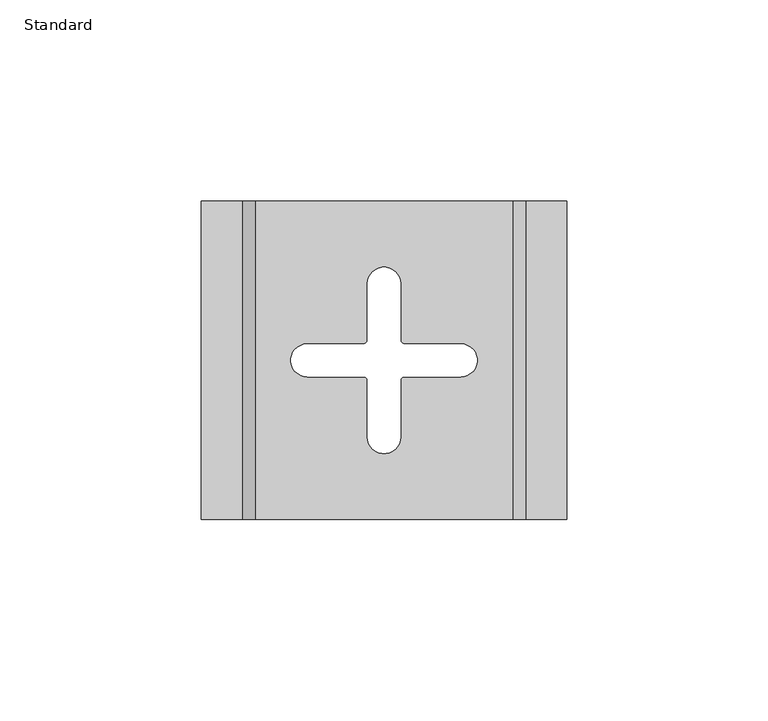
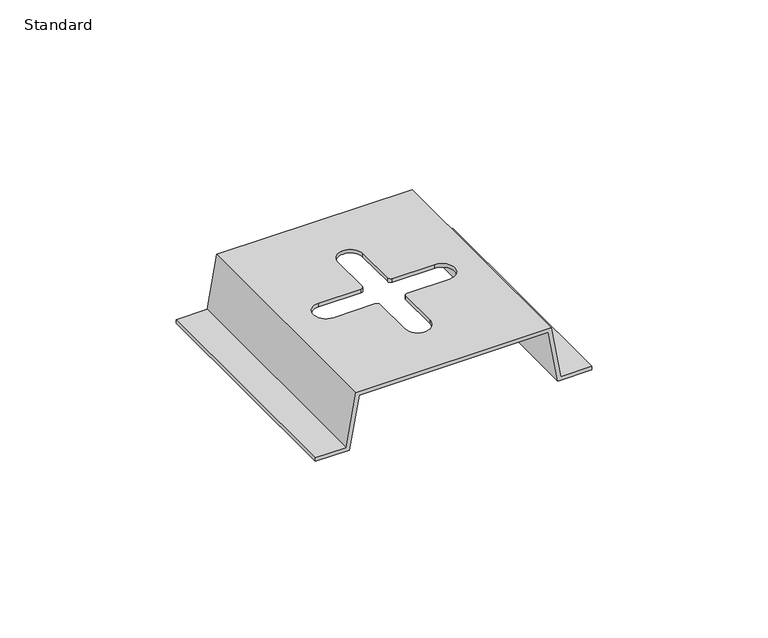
"""IFC4 building model written with IfcOpenShell, lengths in millimetres: electric appliance geometry, Mount-Surface-Cablofil : Standard."""

import ifcopenshell
import ifcopenshell.guid

model = None  # the IFC model being written
_history = None  # IfcOwnerHistory: only IFC2X3 demands one
_inside = {}  # id of a spatial element -> (the spatial element, [elements in it])
_under = {}  # id of a project, library or spatial element -> (it, [spatial elements below it])
_declared = {}  # id of a project -> (the project, [libraries it declares])
_typed = {}  # id of a type object -> (the type object, [elements of that type])
_made_of = {}  # id of a material, layer set ... -> (it, [elements and type objects made of it])


def new_model(schema):
    """Start an empty IFC model of exactly this schema.

    Asked for "IFC4X3", IfcOpenShell would pick the latest addendum, in which some entities
    have other attributes; the version numbers below select the first issue.
    IFC2X3 requires an IfcOwnerHistory on every rooted entity: one is made here for all.
    """
    global model, _history
    if schema == "IFC4X3":
        model = ifcopenshell.file(schema_version=(4, 3, 0, 0))
    else:
        model = ifcopenshell.file(schema=schema)
    _inside.clear()
    _under.clear()
    _declared.clear()
    _typed.clear()
    _made_of.clear()
    _history = None
    if model.schema == "IFC2X3":
        org = make("IfcOrganization", Name="unknown")
        user = make(
            "IfcPersonAndOrganization",
            ThePerson=make("IfcPerson", FamilyName="unknown"),
            TheOrganization=org,
        )
        app = make(
            "IfcApplication",
            ApplicationDeveloper=org,
            Version="unknown",
            ApplicationFullName="unknown",
            ApplicationIdentifier="unknown",
        )
        _history = make(
            "IfcOwnerHistory",
            OwningUser=user,
            OwningApplication=app,
            ChangeAction="ADDED",
            CreationDate=0,
        )
    return model


def make(cls, **values):
    """One entity of the class cls with the attributes given. An attribute that is None is left unset."""
    return model.create_entity(
        cls, **{name: value for name, value in values.items() if value is not None}
    )


def rooted(cls, **values):
    """An entity with a GlobalId (a new one), such as an element, a storey or a relation."""
    return make(cls, GlobalId=ifcopenshell.guid.new(), OwnerHistory=_history, **values)


def si_unit(unit_type, name, prefix=None):
    """IfcSIUnit, for example si_unit("LENGTHUNIT", "METRE", prefix="MILLI")."""
    return make("IfcSIUnit", UnitType=unit_type, Prefix=prefix, Name=name)


def assignment(units):
    """IfcUnitAssignment: the units of a project."""
    return None if units is None else make("IfcUnitAssignment", Units=units)


def point(xyz):
    """IfcCartesianPoint."""
    return None if xyz is None else make("IfcCartesianPoint", Coordinates=xyz)


def direction(xyz):
    """IfcDirection."""
    return None if xyz is None else make("IfcDirection", DirectionRatios=xyz)


def frame(location, z_axis=None, x_axis=None):
    """IfcAxis2Placement3D, a coordinate frame: its origin and axes. An axis left out is left unset."""
    return make(
        "IfcAxis2Placement3D",
        Location=point(location),
        Axis=direction(z_axis),
        RefDirection=direction(x_axis),
    )


def origin():
    """The frame at (0, 0, 0) with its axes left unset."""
    return frame((0.0, 0.0, 0.0))


def place(relative_to, where):
    """IfcLocalPlacement: puts the frame where relative to a parent placement (None: the world)."""
    return make(
        "IfcLocalPlacement", PlacementRelTo=relative_to, RelativePlacement=where
    )


def context(
    kind, dimensions, precision=None, world=None, true_north=None, identifier=None
):
    """IfcGeometricRepresentationContext, for example the 3D "Model" context."""
    return make(
        "IfcGeometricRepresentationContext",
        ContextIdentifier=identifier,
        ContextType=kind,
        CoordinateSpaceDimension=dimensions,
        Precision=precision,
        WorldCoordinateSystem=world,
        TrueNorth=true_north,
    )


def project(units=None, contexts=None):
    """IfcProject with its units and contexts."""
    return rooted(
        "IfcProject",
        Name="project",
        RepresentationContexts=contexts,
        UnitsInContext=assignment(units),
    )


def spatial(cls, under=None, at=None, **own):
    """A site, building, storey or space (cls), placed at a placement, below another one or the project."""
    s = rooted(cls, ObjectPlacement=at, **own)
    if under is not None:
        _under.setdefault(under.id(), (under, []))[1].append(s)
    return s


def polyline(points):
    """IfcPolyline through the points."""
    return make("IfcPolyline", Points=[point(p) for p in points])


def circle_curve(where, radius):
    """IfcCircle in the frame where."""
    return make("IfcCircle", Position=where, Radius=radius)


def shape(context_of_items, identifier, shape_type, items):
    """IfcShapeRepresentation: the items that make up one representation, for example the "Body"."""
    return make(
        "IfcShapeRepresentation",
        ContextOfItems=context_of_items,
        RepresentationIdentifier=identifier,
        RepresentationType=shape_type,
        Items=items,
    )


def source(mapping_origin, context_of_items, identifier, shape_type, items):
    """IfcRepresentationMap: a shape defined once, which mapped items show again and again."""
    return make(
        "IfcRepresentationMap",
        MappingOrigin=mapping_origin,
        MappedRepresentation=shape(context_of_items, identifier, shape_type, items),
    )


def transform(
    local_origin,
    x_axis=None,
    y_axis=None,
    z_axis=None,
    scale=None,
    scale2=None,
    scale3=None,
    uniform=True,
):
    """IfcCartesianTransformationOperator3D, or its non-uniform kind. x_axis, y_axis, z_axis: its Axis1, 2, 3."""
    if uniform:
        return make(
            "IfcCartesianTransformationOperator3D",
            Axis1=direction(x_axis),
            Axis2=direction(y_axis),
            LocalOrigin=point(local_origin),
            Scale=scale,
            Axis3=direction(z_axis),
        )
    return make(
        "IfcCartesianTransformationOperator3DnonUniform",
        Axis1=direction(x_axis),
        Axis2=direction(y_axis),
        LocalOrigin=point(local_origin),
        Scale=scale,
        Axis3=direction(z_axis),
        Scale2=scale2,
        Scale3=scale3,
    )


def mapped(mapping_source, mapping_target):
    """IfcMappedItem: shows the shape of a source again, moved by a transform."""
    return make(
        "IfcMappedItem", MappingSource=mapping_source, MappingTarget=mapping_target
    )


def made_of(thing, what):
    """Note that an element or type object is made of a material, layer set ...; save() writes the relation."""
    if what is not None:
        _made_of.setdefault(what.id(), (what, []))[1].append(thing)
    return thing


def element(
    cls,
    number,
    at=None,
    inside=None,
    cuts=None,
    type_object=None,
    material=None,
    context=None,
    identifier="Body",
    shape_type=None,
    held_by="IfcProductDefinitionShape",
    body=None,
    shapes=None,
    **own,
):
    """One element of the class cls, such as IfcWall. Its Tag is "e" and its number.

    at: its placement. inside: the storey or other place that contains it. cuts: it is an
    opening in that element (IfcRelVoidsElement). A single representation is given by context,
    identifier, shape_type and body (its items); several are given by shapes. held_by: the class
    of the entity that holds the representations. save() writes the other relations.
    """
    e = rooted(cls, Tag="e%d" % number, ObjectPlacement=at, **own)
    if body is not None:
        shapes = [shape(context, identifier, shape_type, body)]
    if shapes is not None:
        e.Representation = make(held_by, Representations=shapes)
    if inside is not None:
        _inside.setdefault(inside.id(), (inside, []))[1].append(e)
    if cuts is not None:
        rooted(
            "IfcRelVoidsElement", RelatingBuildingElement=cuts, RelatedOpeningElement=e
        )
    if type_object is not None:
        _typed.setdefault(type_object.id(), (type_object, []))[1].append(e)
    return made_of(e, material)


def aggregate(whole, parts):
    """IfcRelAggregates: a whole, such as a stair, and the parts it consists of."""
    return rooted("IfcRelAggregates", RelatingObject=whole, RelatedObjects=parts)


def save(model, path):
    """Write the relations noted so far, then the file.

    IfcRelAggregates (storeys below a building ...), IfcRelContainedInSpatialStructure (elements
    in a storey), IfcRelDefinesByType, IfcRelAssociatesMaterial and IfcRelDeclares: one each for
    every whole, place, type object, material and project.
    """
    for whole, parts in _under.values():
        aggregate(whole, parts)
    for where, things in _inside.values():
        rooted(
            "IfcRelContainedInSpatialStructure",
            RelatedElements=things,
            RelatingStructure=where,
        )
    for kind, things in _typed.values():
        rooted("IfcRelDefinesByType", RelatedObjects=things, RelatingType=kind)
    for what, things in _made_of.values():
        rooted("IfcRelAssociatesMaterial", RelatedObjects=things, RelatingMaterial=what)
    for by, libraries in _declared.values():
        rooted("IfcRelDeclares", RelatingContext=by, RelatedDefinitions=libraries)
    model.write(path)


def plane_surface(at):
    """IfcPlane: the flat surface through the origin of the frame at, square to its z axis."""
    return make("IfcPlane", Position=at)


def cylinder_surface(at, radius):
    """IfcCylindricalSurface: all points at the distance radius from the z axis of the frame at."""
    return make("IfcCylindricalSurface", Position=at, Radius=radius)


def revolved_surface(curve, axis_point, axis_direction):
    """IfcSurfaceOfRevolution: the curve turned about the line through axis_point along axis_direction."""
    return make(
        "IfcSurfaceOfRevolution",
        SweptCurve=make("IfcArbitraryOpenProfileDef", ProfileType="CURVE", Curve=curve),
        AxisPosition=make("IfcAxis1Placement", Location=point(axis_point), Axis=direction(axis_direction)),
    )


def advanced_brep(points, edges, surfaces, faces):
    """IfcAdvancedBrep: a solid bounded by faces that lie on surfaces and meet in shared edges.

    An edge is (start, end): straight between two places in points (the first is 0);
    or (start, end, curve); or (start, end, curve, False) where it runs against its curve.
    A face is (place in surfaces, loops), or (place, loops, False) where it looks against
    its surface's normal. A loop lists edges by number (the first is 1), with a minus sign
    where the edge is run from its end to its start. The first loop is the outer one.
    """
    corners = [point(p) for p in points]
    vertices = [make("IfcVertexPoint", VertexGeometry=c) for c in corners]
    made = []
    for start, end, *more in edges:
        made.append(
            make(
                "IfcEdgeCurve",
                EdgeStart=vertices[start],
                EdgeEnd=vertices[end],
                EdgeGeometry=more[0] if more else make("IfcPolyline", Points=[corners[start], corners[end]]),
                SameSense=more[1] if len(more) > 1 else True,
            )
        )
    hull = []
    for where, loops, *sense in faces:
        bounds = []
        for j, loop in enumerate(loops):
            ring = [make("IfcOrientedEdge", EdgeElement=made[abs(k) - 1], Orientation=k > 0) for k in loop]
            bounds.append(
                make(
                    "IfcFaceOuterBound" if j == 0 else "IfcFaceBound",
                    Bound=make("IfcEdgeLoop", EdgeList=ring),
                    Orientation=True,
                )
            )
        hull.append(make("IfcAdvancedFace", Bounds=bounds, FaceSurface=surfaces[where], SameSense=sense[0] if sense else True))
    return make("IfcAdvancedBrep", Outer=make("IfcClosedShell", CfsFaces=hull))


def standard_ea093acd(model_context):
    return source(origin(), model_context, "Body", "AdvancedBrep", [
        advanced_brep(
        [(45.3004826, 39.5, 0.0), (34.1669661, 39.5, 0.0), (30.9930804, 39.5, 18.0), (-30.9930804, 39.5, 18.0), (-34.1669661, 39.5, 0.0), (-45.3004826, 39.5, 0.0), (-45.3004826, 39.5, 1.2), (-35.1738857, 39.5, 1.2), (-32.0, 39.5, 19.2), (32.0, 39.5, 19.2), (35.1738857, 39.5, 1.2), (45.3004826, 39.5, 1.2), (45.3004826, -39.5, 0.0), (45.3004826, -39.5, 1.2), (35.1738857, -39.5, 1.2), (32.0, -39.5, 19.2), (-32.0, -39.5, 19.2), (-35.1738857, -39.5, 1.2), (-45.3004826, -39.5, 1.2), (-45.3004826, -39.5, 0.0), (-34.1669661, -39.5, 0.0), (-30.9930804, -39.5, 18.0), (30.9930804, -39.5, 18.0), (34.1669661, -39.5, 0.0), (-4.1, 19.05, 18.0), (-4.1, 5.1, 18.0), (-5.1, 4.1, 18.0), (-19.05, 4.1, 18.0), (-19.05, -4.1, 18.0), (-5.1, -4.1, 18.0), (-4.1, -5.1, 18.0), (-4.1, -19.05, 18.0), (4.1, -19.05, 18.0), (4.1, -5.1, 18.0), (5.1, -4.1, 18.0), (19.05, -4.1, 18.0), (19.05, 4.1, 18.0), (5.1, 4.1, 18.0), (4.1, 5.1, 18.0), (4.1, 19.05, 18.0), (-4.1, 5.1, 19.2), (-4.1, 19.05, 19.2), (4.1, 19.05, 19.2), (4.1, 5.1, 19.2), (5.1, 4.1, 19.2), (19.05, 4.1, 19.2), (19.05, -4.1, 19.2), (5.1, -4.1, 19.2), (4.1, -5.1, 19.2), (4.1, -19.05, 19.2), (-4.1, -19.05, 19.2), (-4.1, -5.1, 19.2), (-5.1, -4.1, 19.2), (-19.05, -4.1, 19.2), (-19.05, 4.1, 19.2), (-5.1, 4.1, 19.2)],
        [
            (0, 1),
            (1, 2),
            (2, 3),
            (3, 4),
            (4, 5),
            (5, 6),
            (6, 7),
            (7, 8),
            (8, 9),
            (9, 10),
            (10, 11),
            (11, 0),
            (12, 13),
            (13, 14),
            (14, 15),
            (15, 16),
            (16, 17),
            (17, 18),
            (18, 19),
            (19, 20),
            (20, 21),
            (21, 22),
            (22, 23),
            (23, 12),
            (0, 12),
            (23, 1),
            (22, 2),
            (21, 3),
            (24, 25),
            (25, 26, circle_curve(frame((-5.1, 5.1, 18.0), z_axis=(0.0, 0.0, -1.0), x_axis=(1.0, 0.0, 0.0)), 1.0)),
            (26, 27),
            (27, 28, circle_curve(frame((-19.05, 0.0, 18.0), z_axis=(0.0, 0.0, 1.0), x_axis=(1.0, 0.0, 0.0)), 4.1)),
            (28, 29),
            (29, 30, circle_curve(frame((-5.1, -5.1, 18.0), z_axis=(0.0, 0.0, -1.0), x_axis=(1.0, 0.0, 0.0)), 1.0)),
            (30, 31),
            (31, 32, circle_curve(frame((0.0, -19.05, 18.0), z_axis=(0.0, 0.0, 1.0), x_axis=(1.0, 0.0, 0.0)), 4.1)),
            (32, 33),
            (33, 34, circle_curve(frame((5.1, -5.1, 18.0), z_axis=(0.0, 0.0, -1.0), x_axis=(1.0, 0.0, 0.0)), 1.0)),
            (34, 35),
            (35, 36, circle_curve(frame((19.05, 0.0, 18.0), z_axis=(0.0, 0.0, 1.0), x_axis=(1.0, 0.0, 0.0)), 4.1)),
            (36, 37),
            (37, 38, circle_curve(frame((5.1, 5.1, 18.0), z_axis=(0.0, 0.0, -1.0), x_axis=(1.0, 0.0, 0.0)), 1.0)),
            (38, 39),
            (39, 24, circle_curve(frame((0.0, 19.05, 18.0), z_axis=(0.0, 0.0, 1.0), x_axis=(1.0, 0.0, 0.0)), 4.1)),
            (20, 4),
            (19, 5),
            (18, 6),
            (17, 7),
            (16, 8),
            (15, 9),
            (40, 41),
            (41, 42, circle_curve(frame((0.0, 19.05, 19.2), z_axis=(0.0, 0.0, -1.0), x_axis=(1.0, 0.0, 0.0)), 4.1)),
            (42, 43),
            (43, 44, circle_curve(frame((5.1, 5.1, 19.2), z_axis=(0.0, 0.0, 1.0), x_axis=(1.0, 0.0, 0.0)), 1.0)),
            (44, 45),
            (45, 46, circle_curve(frame((19.05, 0.0, 19.2), z_axis=(0.0, 0.0, -1.0), x_axis=(1.0, 0.0, 0.0)), 4.1)),
            (46, 47),
            (47, 48, circle_curve(frame((5.1, -5.1, 19.2), z_axis=(0.0, 0.0, 1.0), x_axis=(1.0, 0.0, 0.0)), 1.0)),
            (48, 49),
            (49, 50, circle_curve(frame((0.0, -19.05, 19.2), z_axis=(0.0, 0.0, -1.0), x_axis=(1.0, 0.0, 0.0)), 4.1)),
            (50, 51),
            (51, 52, circle_curve(frame((-5.1, -5.1, 19.2), z_axis=(0.0, 0.0, 1.0), x_axis=(1.0, 0.0, 0.0)), 1.0)),
            (52, 53),
            (53, 54, circle_curve(frame((-19.05, 0.0, 19.2), z_axis=(0.0, 0.0, -1.0), x_axis=(1.0, 0.0, 0.0)), 4.1)),
            (54, 55),
            (55, 40, circle_curve(frame((-5.1, 5.1, 19.2), z_axis=(0.0, 0.0, 1.0), x_axis=(1.0, 0.0, 0.0)), 1.0)),
            (14, 10),
            (13, 11),
            (24, 41),
            (40, 25),
            (55, 26),
            (54, 27),
            (53, 28),
            (52, 29),
            (51, 30),
            (50, 31),
            (49, 32),
            (48, 33),
            (47, 34),
            (46, 35),
            (45, 36),
            (44, 37),
            (43, 38),
            (42, 39),
        ],
        [
            plane_surface(frame((45.3004826, 39.5, 0.0), z_axis=(0.0, 1.0, 0.0), x_axis=(-1.0, 0.0, 0.0))),
            plane_surface(frame((45.3004826, -39.5, 0.0), z_axis=(0.0, -1.0, 0.0), x_axis=(1.0, 0.0, 0.0))),
            plane_surface(frame((45.3004826, 39.5, 0.0), z_axis=(0.0, 0.0, -1.0), x_axis=(0.0, -1.0, 0.0))),
            plane_surface(frame((34.1669661, 39.5, 0.0), z_axis=(-0.9848077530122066, 0.0, -0.17364817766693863), x_axis=(0.0, -1.0, 0.0))),
            plane_surface(frame((30.9930804, 39.5, 18.0), z_axis=(0.0, 0.0, -1.0), x_axis=(0.0, -1.0, 0.0))),
            plane_surface(frame((-30.9930804, 39.5, 18.0), z_axis=(0.9848077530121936, 0.0, -0.1736481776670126), x_axis=(0.0, -1.0, 0.0))),
            plane_surface(frame((-34.1669661, 39.5, 0.0), z_axis=(0.0, 0.0, -1.0), x_axis=(0.0, -1.0, 0.0))),
            plane_surface(frame((-45.3004826, 39.5, 0.0), z_axis=(-1.0, 0.0, 0.0), x_axis=(0.0, -1.0, 0.0))),
            plane_surface(frame((-45.3004826, 39.5, 1.2), z_axis=(0.0, 0.0, 1.0), x_axis=(0.0, -1.0, 0.0))),
            plane_surface(frame((-35.1738857, 39.5, 1.2), z_axis=(-0.9848077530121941, 0.0, 0.17364817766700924), x_axis=(0.0, -1.0, 0.0))),
            plane_surface(frame((-32.0, 39.5, 19.2), z_axis=(0.0, 0.0, 1.0), x_axis=(0.0, -1.0, 0.0))),
            plane_surface(frame((32.0, 39.5, 19.2), z_axis=(0.9848077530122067, 0.0, 0.17364817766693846), x_axis=(0.0, -1.0, 0.0))),
            plane_surface(frame((35.1738857, 39.5, 1.2), z_axis=(0.0, 0.0, 1.0), x_axis=(0.0, -1.0, 0.0))),
            plane_surface(frame((45.3004826, 39.5, 1.2), z_axis=(1.0, 0.0, 0.0), x_axis=(0.0, -1.0, 0.0))),
            plane_surface(frame((-4.1, 19.05, 19.2), z_axis=(1.0, 0.0, 0.0), x_axis=(0.0, 0.0, -1.0))),
            cylinder_surface(frame((-5.1, 5.1, 0.0), z_axis=(0.0, 0.0, -1.0), x_axis=(1.0, 0.0, 0.0)), 1.0),
            plane_surface(frame((-5.1, 4.1, 19.2), z_axis=(0.0, -1.0, 0.0), x_axis=(0.0, 0.0, -1.0))),
            revolved_surface(polyline([(-14.950000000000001, 0.0, 19.2), (-14.950000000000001, 0.0, 18.0)]), (-19.05, 0.0, 0.0), (0.0, 0.0, 1.0)),
            plane_surface(frame((-19.05, -4.1, 19.2), z_axis=(0.0, 1.0, 0.0), x_axis=(0.0, 0.0, -1.0))),
            cylinder_surface(frame((-5.1, -5.1, 0.0), z_axis=(0.0, 0.0, -1.0), x_axis=(1.0, 0.0, 0.0)), 1.0),
            plane_surface(frame((-4.1, -5.1, 19.2), z_axis=(1.0, 0.0, 0.0), x_axis=(0.0, 0.0, -1.0))),
            revolved_surface(polyline([(4.1, -19.05, 19.2), (4.1, -19.05, 18.0)]), (0.0, -19.05, 0.0), (0.0, 0.0, 1.0)),
            plane_surface(frame((4.1, -19.05, 19.2), z_axis=(-1.0, 0.0, 0.0), x_axis=(0.0, 0.0, -1.0))),
            cylinder_surface(frame((5.1, -5.1, 0.0), z_axis=(0.0, 0.0, -1.0), x_axis=(1.0, 0.0, 0.0)), 1.0),
            plane_surface(frame((5.1, -4.1, 19.2), z_axis=(0.0, 1.0, 0.0), x_axis=(0.0, 0.0, -1.0))),
            revolved_surface(polyline([(23.15, 0.0, 19.2), (23.15, 0.0, 18.0)]), (19.05, 0.0, 0.0), (0.0, 0.0, 1.0)),
            plane_surface(frame((19.05, 4.1, 19.2), z_axis=(0.0, -1.0, 0.0), x_axis=(0.0, 0.0, -1.0))),
            cylinder_surface(frame((5.1, 5.1, 0.0), z_axis=(0.0, 0.0, -1.0), x_axis=(1.0, 0.0, 0.0)), 1.0),
            plane_surface(frame((4.1, 5.1, 19.2), z_axis=(-1.0, 0.0, 0.0), x_axis=(0.0, 0.0, -1.0))),
            revolved_surface(polyline([(4.1, 19.05, 19.2), (4.1, 19.05, 18.0)]), (0.0, 19.05, 0.0), (0.0, 0.0, 1.0)),
        ],
        [
            (0, [[1, 2, 3, 4, 5, 6, 7, 8, 9, 10, 11, 12]]),
            (1, [[13, 14, 15, 16, 17, 18, 19, 20, 21, 22, 23, 24]]),
            (2, [[-1, 25, -24, 26]]),
            (3, [[-2, -26, -23, 27]]),
            (4, [[-3, -27, -22, 28], [29, 30, 31, 32, 33, 34, 35, 36, 37, 38, 39, 40, 41, 42, 43, 44]]),
            (5, [[-4, -28, -21, 45]]),
            (6, [[-5, -45, -20, 46]]),
            (7, [[-6, -46, -19, 47]]),
            (8, [[-7, -47, -18, 48]]),
            (9, [[-8, -48, -17, 49]]),
            (10, [[-9, -49, -16, 50], [51, 52, 53, 54, 55, 56, 57, 58, 59, 60, 61, 62, 63, 64, 65, 66]]),
            (11, [[-10, -50, -15, 67]]),
            (12, [[-11, -67, -14, 68]]),
            (13, [[-12, -68, -13, -25]]),
            (14, [[69, -51, 70, -29]]),
            (15, [[-70, -66, 71, -30]]),
            (16, [[-71, -65, 72, -31]]),
            (17, [[-72, -64, 73, -32]]),
            (18, [[-73, -63, 74, -33]]),
            (19, [[-74, -62, 75, -34]]),
            (20, [[-75, -61, 76, -35]]),
            (21, [[-76, -60, 77, -36]]),
            (22, [[-77, -59, 78, -37]]),
            (23, [[-78, -58, 79, -38]]),
            (24, [[-79, -57, 80, -39]]),
            (25, [[-80, -56, 81, -40]]),
            (26, [[-81, -55, 82, -41]]),
            (27, [[-82, -54, 83, -42]]),
            (28, [[-83, -53, 84, -43]]),
            (29, [[-69, -44, -84, -52]]),
        ],
    ),
    ])


if __name__ == "__main__":
    model = new_model("IFC4")
    model_context = context("Model", 3, world=origin())
    ifc_project = project(units=[si_unit("LENGTHUNIT", "METRE", prefix="MILLI")], contexts=[model_context])
    site = spatial("IfcSite", under=ifc_project)
    building = spatial("IfcBuilding", under=site)
    placement = place(None, origin())
    standard_shape = standard_ea093acd(model_context)
    element("IfcElectricAppliance", 1, ObjectType="Mount-Surface-Cablofil : Standard", at=placement, inside=building, context=model_context, shape_type="MappedRepresentation", body=[
        mapped(standard_shape, transform((0.0, 0.0, 0.0), x_axis=(1.0, 0.0, 0.0), y_axis=(0.0, 1.0, 0.0), z_axis=(0.0, 0.0, 1.0))),
    ])
    save(model, "model.ifc")
